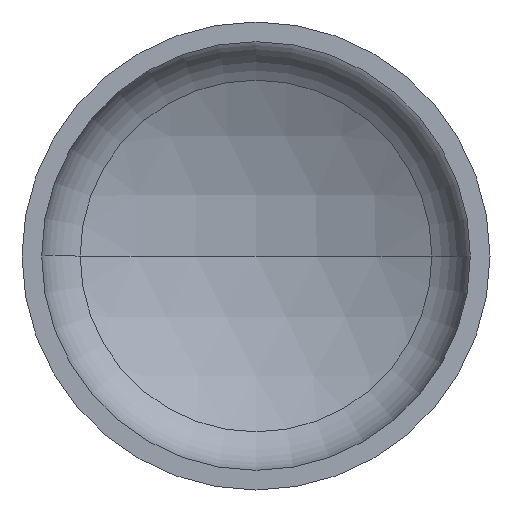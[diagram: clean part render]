
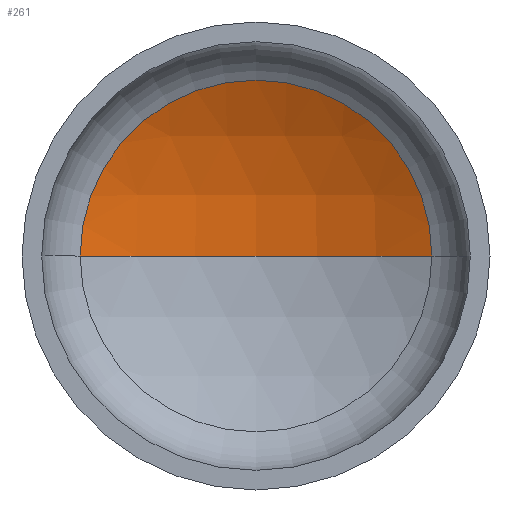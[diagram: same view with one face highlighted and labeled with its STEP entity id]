
A CAD part, front view. The second image highlights one B-rep face of the part: STEP entity #261.
In plain terms, the highlighted spherical face has radius 1600 mm.
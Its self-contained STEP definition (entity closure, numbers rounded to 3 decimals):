
#5 = AXIS2_PLACEMENT_3D ( 'NONE', #163, #389, #383 ) ;
#16 = DIRECTION ( 'NONE',  ( 0., -1., 0. ) ) ;
#35 = CARTESIAN_POINT ( 'NONE',  ( 0., 373.665, 0. ) ) ;
#40 = AXIS2_PLACEMENT_3D ( 'NONE', #177, #189, #187 ) ;
#46 = AXIS2_PLACEMENT_3D ( 'NONE', #302, #334, #172 ) ;
#49 = AXIS2_PLACEMENT_3D ( 'NONE', #35, #16, #360 ) ;
#53 = FACE_OUTER_BOUND ( 'NONE', #91, .T. ) ;
#79 = VERTEX_POINT ( 'NONE', #399 ) ;
#91 = EDGE_LOOP ( 'NONE', ( #315, #222, #403 ) ) ;
#101 = VERTEX_POINT ( 'NONE', #220 ) ;
#117 = EDGE_CURVE ( 'NONE', #79, #101, #180, .T. ) ;
#118 = EDGE_CURVE ( 'NONE', #282, #79, #122, .T. ) ;
#119 = EDGE_CURVE ( 'NONE', #282, #101, #379, .T. ) ;
#122 = CIRCLE ( 'NONE', #46, 1600. ) ;
#156 = CARTESIAN_POINT ( 'NONE',  ( 0., 561.201, 0. ) ) ;
#163 = CARTESIAN_POINT ( 'NONE',  ( 0., -1038.799, 0. ) ) ;
#164 = SPHERICAL_SURFACE ( 'NONE', #5, 1600. ) ;
#172 = DIRECTION ( 'NONE',  ( -1., 0., 0. ) ) ;
#177 = CARTESIAN_POINT ( 'NONE',  ( 0., -1038.799, 0. ) ) ;
#180 = CIRCLE ( 'NONE', #49, 751.628 ) ;
#187 = DIRECTION ( 'NONE',  ( 1., 0., 0. ) ) ;
#189 = DIRECTION ( 'NONE',  ( 0., 0., 1. ) ) ;
#220 = CARTESIAN_POINT ( 'NONE',  ( -751.628, 373.665, 0. ) ) ;
#222 = ORIENTED_EDGE ( 'NONE', *, *, #118, .T. ) ;
#261 = ADVANCED_FACE ( 'NONE', ( #53 ), #164, .F. ) ;
#282 = VERTEX_POINT ( 'NONE', #156 ) ;
#302 = CARTESIAN_POINT ( 'NONE',  ( 0., -1038.799, 0. ) ) ;
#315 = ORIENTED_EDGE ( 'NONE', *, *, #119, .F. ) ;
#334 = DIRECTION ( 'NONE',  ( 0., 0., -1. ) ) ;
#360 = DIRECTION ( 'NONE',  ( 1., 0., 0. ) ) ;
#379 = CIRCLE ( 'NONE', #40, 1600. ) ;
#383 = DIRECTION ( 'NONE',  ( -1., 0., 0. ) ) ;
#389 = DIRECTION ( 'NONE',  ( 0., 0., -1. ) ) ;
#399 = CARTESIAN_POINT ( 'NONE',  ( 751.628, 373.665, 0. ) ) ;
#403 = ORIENTED_EDGE ( 'NONE', *, *, #117, .T. ) ;
